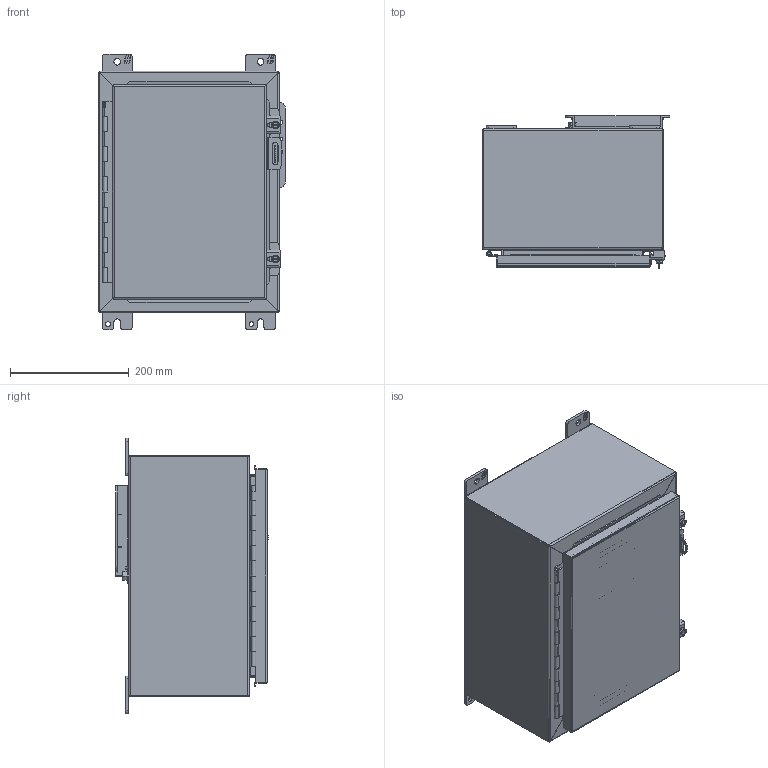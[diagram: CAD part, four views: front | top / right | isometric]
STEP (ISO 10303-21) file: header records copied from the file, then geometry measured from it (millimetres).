
FILE_DESCRIPTION(/* description */ ('Unknown'),/* implementation_level */ '2;1');
FILE_NAME(/* name */ '1418B8',/* time_stamp */ '2018-09-17T14:29:50-04:00',/* author */ ('Unknown'),/* organization */ ('Unknown'),/* preprocessor_version */ 'ST-DEVELOPER v16.7',/* originating_system */ 'DEX',/* authorisation */ $);
FILE_SCHEMA (('AUTOMOTIVE_DESIGN {1 0 10303 214 3 1 1}'));
Length unit declared in the file: millimetre
Products named in the file (36): 1418B8; STD26094; GSK10080_oa_0; STD21878; COM42780; GSK10080_oa_1; COM40153-1; COM40670; GSK10080_oa_2; HNG10610-12B; HNG10620-12P; COM42196; COM55728-17; COM40153-2; COM55728-4; HNG10610-12C; COM48435; FET07710; AKT90223; SPR20265; SCC19011; WAF25035; COM42667; BUL10020; QLB20277; PKT66; KIT90256; LAB30005; NTS165305; NTS16535; AKT95002; WAF25059; NTS166105; GSK10080_oa_3; KIT95018
Assembly tree (50 placements, depth 3):
  1418B8
    STD26094  x4
    GSK10080_oa_0
    STD21878
    COM42780  x2
    GSK10080_oa_1
    COM40153-1
    COM40670
    GSK10080_oa_2
    HNG10610-12B
    HNG10620-12P
    COM42196
      COM55728-17  x2
      COM40153-2
      COM55728-4  x2
      HNG10610-12C
      COM42196
      STD21878
    COM48435
    FET07710  x4
    AKT90223  x2
      SPR20265
      SCC19011
      WAF25035
      COM42667
    BUL10020
    QLB20277
    PKT66
    KIT90256
      LAB30005
      NTS165305
      NTS16535
    AKT95002  x2
      WAF25059
      NTS166105
    GSK10080_oa_3
    KIT95018
      WAF25059
      NTS166105
      LAB30005
Bounding box: 315.37 x 257.18 x 463.55 mm (x, y, z)
Volume: 1606527.9 mm3; surface area: 1634202.1 mm2
Topology: 46 solids, 46 shells, 1228 faces, 3098 edges, 1994 vertices
Faces by surface type: plane 856, cylinder 284, bspline 52, cone 18, torus 16, sphere 2
Full cylindrical faces by diameter (mm): 3.175 x1, 4.763 x1, 4.976 x1, 5.41 x2, 6.198 x2, 6.35 x3, 6.731 x2, 7.137 x2, 7.805 x3, 7.938 x4, 8.382 x4, 9.525 x4, 9.906 x2, 11.113 x4, 11.303 x3, 12.7 x6, 16.51 x4, 25.4 x3, 88.9 x1
Entity records: 30836 total; most frequent: CARTESIAN_POINT 9574, ORIENTED_EDGE 4262, DIRECTION 3984, EDGE_CURVE 2131, LINE 1482, VECTOR 1482, VERTEX_POINT 1371, AXIS2_PLACEMENT_3D 1251
